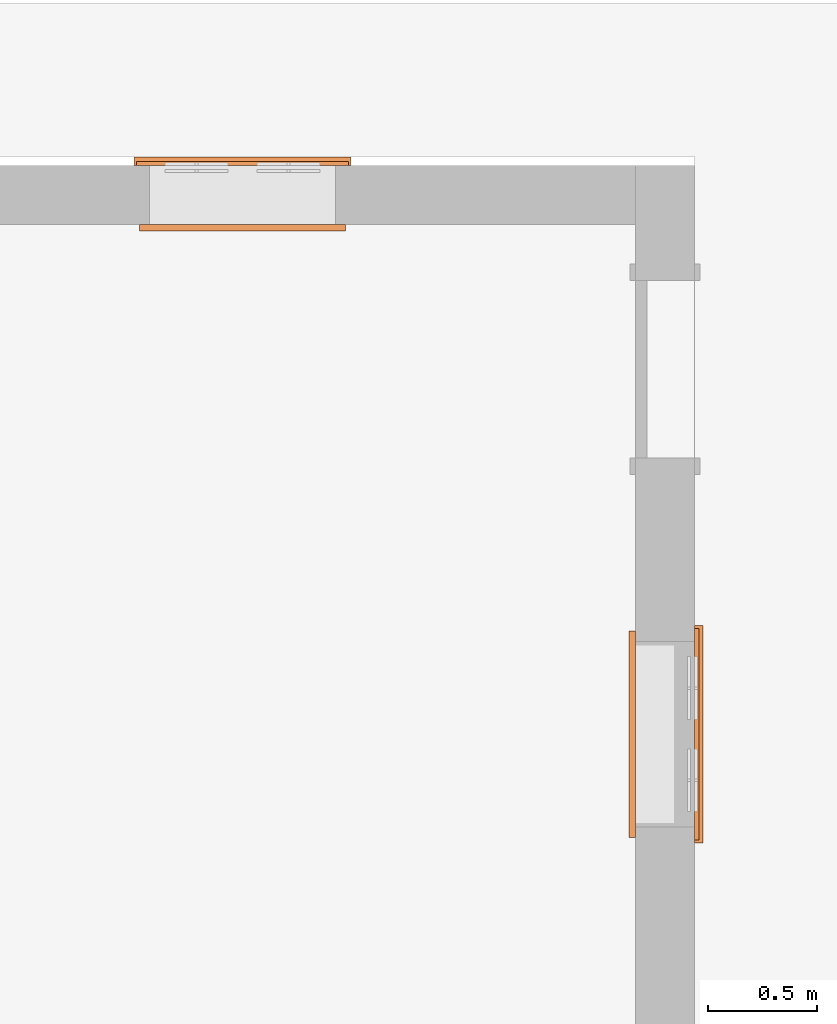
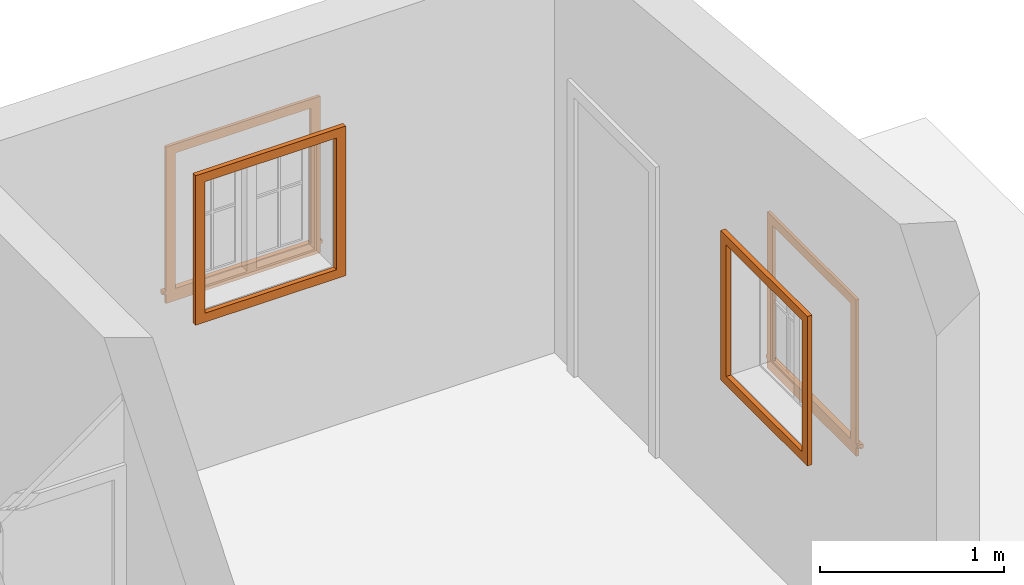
# One storey, part 15 of 16: 4 proxies.
"""IFC2X3 building model written with IfcOpenShell, lengths in millimetres."""

from ifc_helpers import new_model, entity, si_unit, converted_unit, derived_unit, direction, frame, frame_2d, origin, place, context, subcontext, project, spatial, polyline, rectangle, outline, extrude, source, transform, mapped, material, type_object, type_shapes, element, save


model = new_model("IFC2X3")

# Units and contexts
model_context = context("Model", 3, precision=0.01, world=origin(), true_north=direction((4.05803320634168e-15, -1.0)))
body_context = subcontext(model_context, "Body", "Model", "MODEL_VIEW")
ifc_project = project(units=[si_unit("LENGTHUNIT", "METRE", prefix="MILLI"), si_unit("AREAUNIT", "SQUARE_METRE"), si_unit("VOLUMEUNIT", "CUBIC_METRE"), converted_unit("PLANEANGLEUNIT", "DEGREE", entity("IfcRatioMeasure", 0.0174532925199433), si_unit("PLANEANGLEUNIT", "RADIAN"), dimensions=[0, 0, 0, 0, 0, 0, 0]), si_unit("MASSUNIT", "GRAM", prefix="KILO"), derived_unit("MASSDENSITYUNIT", [(si_unit("MASSUNIT", "GRAM", prefix="KILO"), 1), (si_unit("LENGTHUNIT", "METRE"), -3)]), si_unit("TIMEUNIT", "SECOND"), si_unit("FREQUENCYUNIT", "HERTZ"), si_unit("THERMODYNAMICTEMPERATUREUNIT", "DEGREE_CELSIUS"), derived_unit("THERMALTRANSMITTANCEUNIT", [(si_unit("MASSUNIT", "GRAM", prefix="KILO"), 1), (si_unit("THERMODYNAMICTEMPERATUREUNIT", "KELVIN"), -1), (si_unit("TIMEUNIT", "SECOND"), -3)]), derived_unit("VOLUMETRICFLOWRATEUNIT", [(si_unit("LENGTHUNIT", "METRE"), 3), (si_unit("TIMEUNIT", "SECOND"), -1)]), si_unit("ELECTRICCURRENTUNIT", "AMPERE"), si_unit("ELECTRICVOLTAGEUNIT", "VOLT"), si_unit("POWERUNIT", "WATT"), si_unit("FORCEUNIT", "NEWTON", prefix="KILO"), si_unit("ILLUMINANCEUNIT", "LUX"), si_unit("LUMINOUSFLUXUNIT", "LUMEN"), si_unit("LUMINOUSINTENSITYUNIT", "CANDELA"), derived_unit("USERDEFINED", [(si_unit("MASSUNIT", "GRAM", prefix="KILO"), -1), (si_unit("LENGTHUNIT", "METRE"), -2), (si_unit("TIMEUNIT", "SECOND"), 3), (si_unit("LUMINOUSFLUXUNIT", "LUMEN"), 1)]), derived_unit("LINEARVELOCITYUNIT", [(si_unit("LENGTHUNIT", "METRE"), 1), (si_unit("TIMEUNIT", "SECOND"), -1)]), si_unit("PRESSUREUNIT", "PASCAL"), derived_unit("USERDEFINED", [(si_unit("LENGTHUNIT", "METRE"), -2), (si_unit("MASSUNIT", "GRAM", prefix="KILO"), 1), (si_unit("TIMEUNIT", "SECOND"), -2)])], contexts=[model_context])

# Site, building, storey
site_placement = place(None, frame((927466.849349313, 583801.882853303, 0.0), z_axis=(0.0, 0.0, 1.0), x_axis=(-1.0, 0.0, 0.0)))
site = spatial("IfcSite", under=ifc_project, at=site_placement, Name="Surface", CompositionType="ELEMENT")
building_placement = place(site_placement, origin())
building = spatial("IfcBuilding", under=site, at=building_placement, CompositionType="ELEMENT")
storey_placement = place(building_placement, frame((0.0, 0.0, 42810.0)))
storey = spatial("IfcBuildingStorey", under=building, at=storey_placement, Name="Hardstand", CompositionType="ELEMENT", Elevation=42810.0)

# Proxies
ifc_material_1 = material(Name="Clad - White")
building_element_proxy_type_1 = type_object("IfcBuildingElementProxyType", Name="with Sill", PredefinedType="NOTDEFINED", material=ifc_material_1)
shared_shape_1 = source(origin(), body_context, "Body", "SweptSolid", [
    extrude(rectangle(XDim=969.999999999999, YDim=60.0, at=frame_2d((0.0, -6.75015598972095e-14), x_axis=(1.0, 0.0))), frame((0.0, -950.432370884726, 0.0), z_axis=(0.0, 0.0, 1.0), x_axis=(-1.0, 0.0, 0.0)), (0.0, 0.0, 1.0), 19.05),
    extrude(outline(polyline([(-19.0499999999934, -15.2395991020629), (0.0, -15.2395991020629), (0.0, -5.67196998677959), (19.0499999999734, -5.67196998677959), (19.0499999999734, 14.760400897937), (0.0, 14.760400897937), (-19.0499999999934, 12.3023363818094), (-19.0499999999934, -15.2395991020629)])), frame((-497.699999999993, -914.760400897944, 19.0499999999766), z_axis=(1.0, 0.0, 0.0), x_axis=(0.0, 0.0, -1.0)), (0.0, 0.0, 1.0), 995.400000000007),
    extrude(outline(polyline([(-495.0, -485.0), (465.0, -485.0), (465.0, -425.0), (-435.0, -425.0), (-435.0, 425.0), (465.0, 425.0), (465.0, 485.0), (-495.0, 485.0), (-495.0, -485.0)])), frame((0.0, -435.0, 0.0), z_axis=(0.0, 0.0, 1.0), x_axis=(0.0, -1.0, 0.0)), (0.0, 0.0, 1.0), 19.05),
])
type_shapes(building_element_proxy_type_1, [shared_shape_1])
for number, where, z_axis, x_axis, name in (
    (1, (-152150.801407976, 9594.17285700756, 2076.36991928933), (-1.0, 0.0, 0.0), (0.0, -1.0, 0.0), "M_Trim-Window-Exterior-Flat:with Sill"),
    (2, (-150079.804466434, 6989.01582707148, 2113.68641480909), (0.0, -1.0, 0.0), (1.0, 0.0, 0.0), "M_Trim-Window-Exterior-Flat:with Sill"),
):
    element("IfcBuildingElementProxy", number, at=place(storey_placement, frame(where, z_axis=z_axis, x_axis=x_axis)), inside=storey, type_object=building_element_proxy_type_1, material=ifc_material_1, Name=name, ObjectType="with Sill", context=body_context, shape_type="MappedRepresentation", body=[
        mapped(shared_shape_1, transform((0.0, 0.0, 0.0), scale=1.0)),
    ])
ifc_material_2 = material(Name="Wood - Stained")
building_element_proxy_type_2 = type_object("IfcBuildingElementProxyType", Name="Picture Frame", PredefinedType="NOTDEFINED", material=ifc_material_2)
shared_shape_2 = source(origin(), body_context, "Body", "SweptSolid", [
    extrude(outline(polyline([(-472.299999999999, -497.299999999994), (472.299999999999, -497.299999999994), (472.299999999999, 497.299999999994), (-472.299999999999, 497.299999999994), (-472.299999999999, -497.299999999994)]), holes=[polyline([(-412.300000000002, -437.299999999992), (-412.300000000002, 437.299999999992), (412.299999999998, 437.299999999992), (412.299999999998, -437.299999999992), (-412.300000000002, -437.299999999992)])]), frame((0.0, -450.0, 0.0), z_axis=(0.0, 0.0, 1.0), x_axis=(-1.0, 0.0, 0.0)), (0.0, 0.0, 1.0), 30.0),
])
type_shapes(building_element_proxy_type_2, [shared_shape_2])
for number, where, z_axis, x_axis, name in (
    (3, (-151880.801407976, 9594.17285700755, 2076.36991928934), (1.0, 0.0, 0.0), (0.0, 1.0, 0.0), "M_Trim-Window-Interior-Flat:Picture Frame"),
    (4, (-150079.804466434, 7259.01582707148, 2113.68641480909), (0.0, 1.0, 0.0), (-1.0, 0.0, 0.0), "M_Trim-Window-Interior-Flat:Picture Frame"),
):
    element("IfcBuildingElementProxy", number, at=place(storey_placement, frame(where, z_axis=z_axis, x_axis=x_axis)), inside=storey, type_object=building_element_proxy_type_2, material=ifc_material_2, Name=name, ObjectType="Picture Frame", context=body_context, shape_type="MappedRepresentation", body=[
        mapped(shared_shape_2, transform((0.0, 0.0, 0.0), scale=1.0)),
    ])

save(model, "model.ifc")
